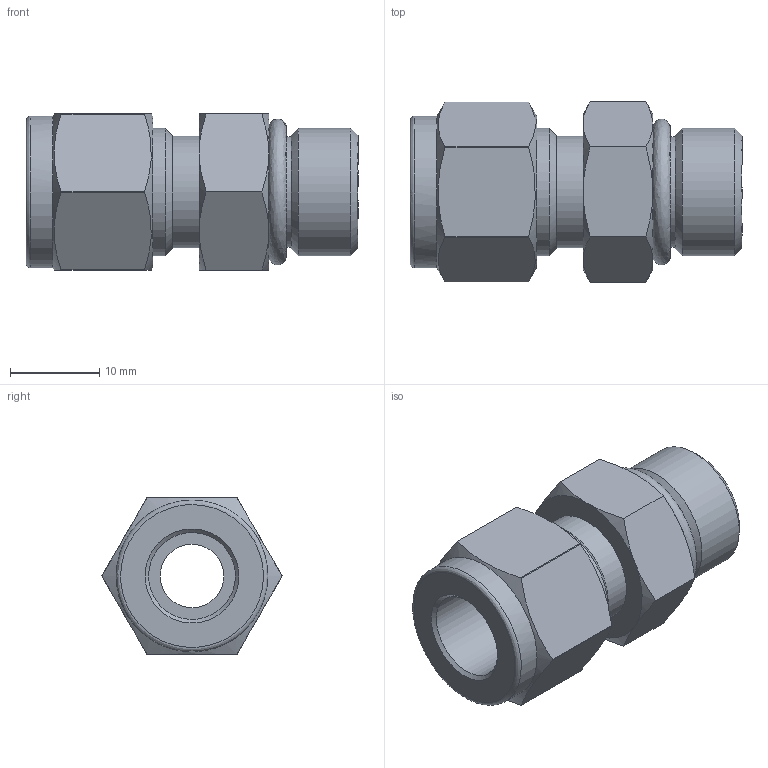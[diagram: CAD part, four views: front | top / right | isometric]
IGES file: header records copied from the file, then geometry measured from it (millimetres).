
Global section: file name: SSMC-6-6U; native system: Autodesk Inventor 2016; preprocessor: unknown; author: 배성훈,,11,0; organization: 20150903.101201; date: 20160125.095457; units: millimetre
Bounding box: 37.21 x 20.21 x 17.5 mm (x, y, z)
Volume: 5799.2 mm3; surface area: 3880.2 mm2
Topology: 1 solids, 3 shells, 57 faces, 144 edges, 96 vertices
Faces by surface type: bspline 57
